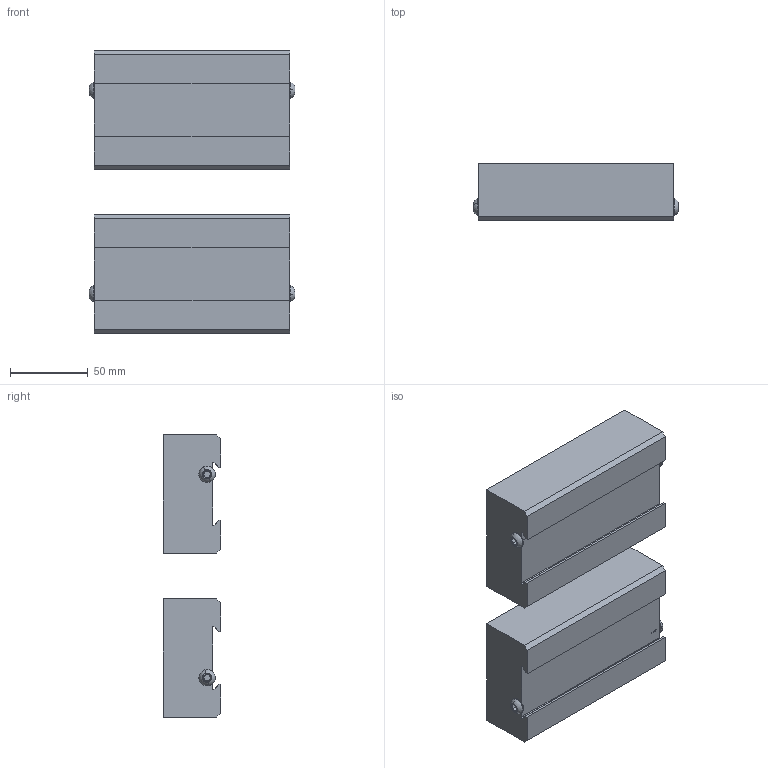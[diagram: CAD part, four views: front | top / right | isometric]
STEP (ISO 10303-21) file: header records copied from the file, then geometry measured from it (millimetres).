
FILE_DESCRIPTION (( 'STEP AP214' ), '1' );
FILE_NAME ('VAJ-VA5.STEP', '2024-03-07T18:58:41', ( '' ), ( '' ), 'SwSTEP 2.0', 'SolidWorks 2021', '' );
FILE_SCHEMA (( 'AUTOMOTIVE_DESIGN' ));
Length unit declared in the file: inch
Products named in the file (3): M6X8MM.BHCS_M6X8MM.BHCS; VAJ-VA56-1_VAJ-VA56-1; VAJ-VA5
Assembly tree (6 placements, depth 2):
  VAJ-VA5
    VAJ-VA56-1_VAJ-VA56-1  x2
    M6X8MM.BHCS_M6X8MM.BHCS  x4
Bounding box: 132.33 x 36.83 x 181.83 mm (x, y, z)
Volume: 656943.3 mm3; surface area: 73897.4 mm2
Topology: 6 solids, 6 shells, 278 faces, 666 edges, 408 vertices
Faces by surface type: cylinder 102, plane 88, cone 68, bspline 12, sphere 8
Entity records: 4268 total; most frequent: CARTESIAN_POINT 2115, ORIENTED_EDGE 444, DIRECTION 399, EDGE_CURVE 222, AXIS2_PLACEMENT_3D 142, VERTEX_POINT 138, VECTOR 115, LINE 115
